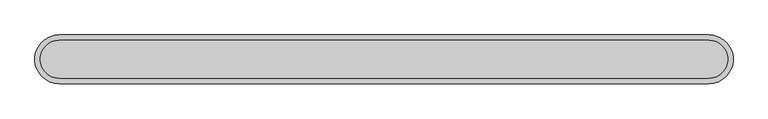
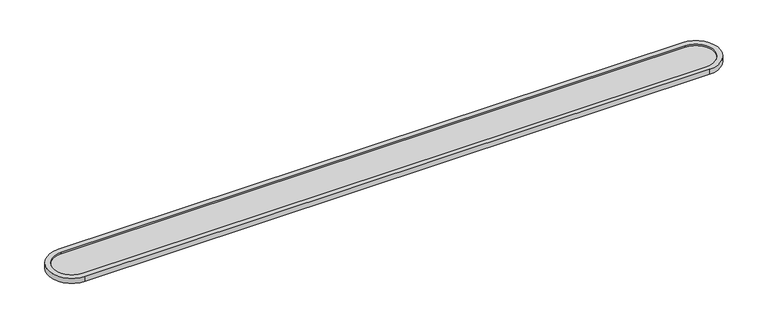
"""IFC4 building model written with IfcOpenShell, lengths in millimetres: light fixture geometry, Lumin techo_fluorescente : Luminarias bajo locales."""

from ifc_helpers import new_model, si_unit, point, frame, frame_2d, origin, place, context, project, spatial, polyline, circle_curve, trimmed, segment, composite_curve, outline, extrude, source, transform, mapped, element, save


def light_fixture_530e717e(model_context):
    return source(origin(), model_context, "Body", "SweptSolid", [
        extrude(outline(composite_curve([segment(trimmed(circle_curve(frame_2d((-600.0, 0.0)), 35.0), [point((-600.0, -35.0))], [point((-600.0, 35.0))], False, "CARTESIAN"), True, "CONTINUOUS"), segment(polyline([(-600.0, 35.0), (600.0, 35.0)]), True, "CONTINUOUS"), segment(trimmed(circle_curve(frame_2d((600.0, 0.0)), 35.0), [point((600.0, 35.0))], [point((600.0, -35.0))], False, "CARTESIAN"), True, "CONTINUOUS"), segment(polyline([(600.0, -35.0), (-600.0, -35.0)]), True, "CONTINUOUS")], self_intersect=False)), frame((0.0, 0.0, 1822.0), z_axis=(0.0, 0.0, 1.0), x_axis=(1.0, 0.0, 0.0)), (0.0, 0.0, 1.0), 5.0),
        extrude(outline(composite_curve([segment(polyline([(600.0, -45.0), (-600.0, -45.0)]), True, "CONTINUOUS"), segment(trimmed(circle_curve(frame_2d((-600.0, 0.0)), 45.0), [point((-600.0, -45.0))], [point((-600.0, 45.0))], False, "CARTESIAN"), True, "CONTINUOUS"), segment(polyline([(-600.0, 45.0), (600.0, 45.0)]), True, "CONTINUOUS"), segment(trimmed(circle_curve(frame_2d((600.0, 0.0)), 45.0), [point((600.0, 45.0))], [point((600.0, -45.0))], False, "CARTESIAN"), True, "CONTINUOUS")], self_intersect=False), holes=[composite_curve([segment(trimmed(circle_curve(frame_2d((600.0, 0.0)), 35.0), [point((600.0, -35.0))], [point((600.0, 35.0))], True, "CARTESIAN"), True, "CONTINUOUS"), segment(polyline([(600.0, 35.0), (-600.0, 35.0)]), True, "CONTINUOUS"), segment(trimmed(circle_curve(frame_2d((-600.0, 0.0)), 35.0), [point((-600.0, 35.0))], [point((-600.0, -35.0))], True, "CARTESIAN"), True, "CONTINUOUS"), segment(polyline([(-600.0, -35.0), (600.0, -35.0)]), True, "CONTINUOUS")], self_intersect=False)]), frame((0.0, 0.0, 1820.0), z_axis=(0.0, 0.0, 1.0), x_axis=(1.0, 0.0, 0.0)), (0.0, 0.0, 1.0), 10.0),
    ])


if __name__ == "__main__":
    model = new_model("IFC4")
    model_context = context("Model", 3, world=origin())
    ifc_project = project(units=[si_unit("LENGTHUNIT", "METRE", prefix="MILLI")], contexts=[model_context])
    site = spatial("IfcSite", under=ifc_project)
    building = spatial("IfcBuilding", under=site)
    placement = place(None, origin())
    light_fixture_shape = light_fixture_530e717e(model_context)
    element("IfcLightFixture", 1, ObjectType="Lumin techo_fluorescente : Luminarias bajo locales", at=placement, inside=building, context=model_context, shape_type="MappedRepresentation", body=[
        mapped(light_fixture_shape, transform((0.0, 0.0, 0.0), x_axis=(1.0, 0.0, 0.0), y_axis=(0.0, 1.0, 0.0), z_axis=(0.0, 0.0, 1.0))),
    ])
    save(model, "model.ifc")
